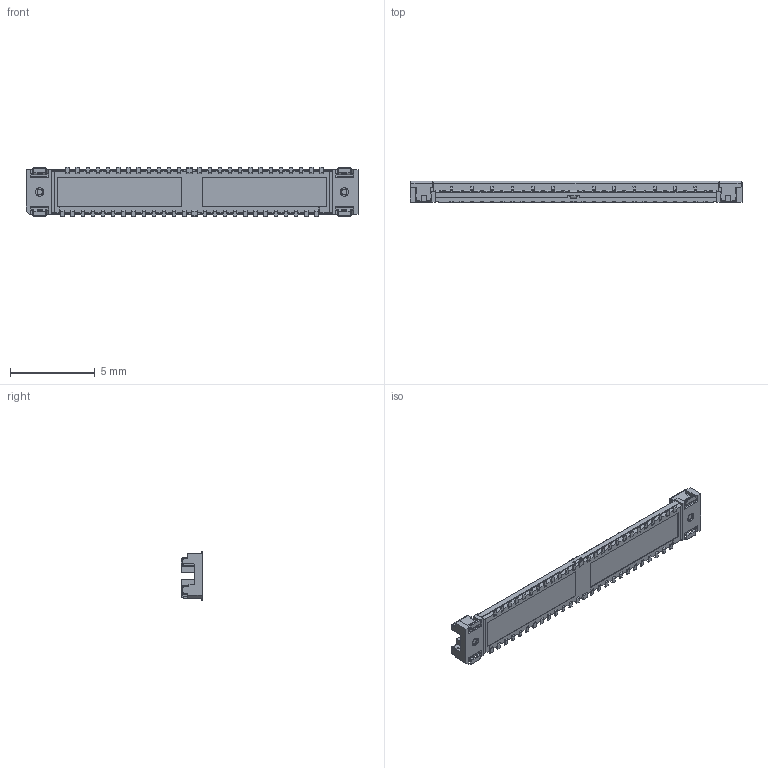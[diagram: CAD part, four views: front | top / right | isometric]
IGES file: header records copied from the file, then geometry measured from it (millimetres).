
Start section: SolidWorks IGES file using analytic representation for surfaces
Global section: file name: C:\3dwork\yoshisuji\CABLINE-UAII\watanabe\VF登録-yoshisuji\IGES\20498-050E-00C RECE ASS'Y IGES R2 ALL.IGS,1; native system: 5HSolidWorks 2011; preprocessor: SolidWorks 2011; author: 3DCAD; date: 120529.154322; units: millimetre
Bounding box: 19.6 x 1.27 x 2.9 mm (x, y, z)
Surface area: 214.8 mm2 (no closed solid volume)
Topology: 0 solids, 0 shells, 2353 faces, 14594 edges, 14594 vertices
Faces by surface type: bspline 2072, revolution 281
